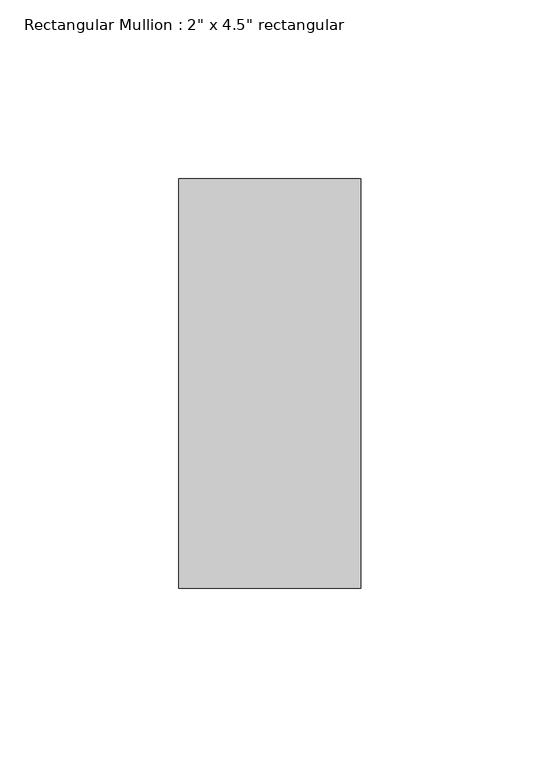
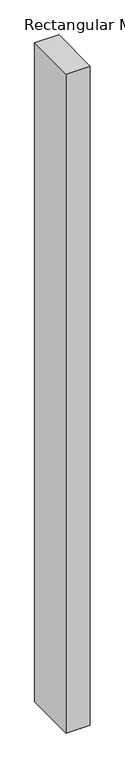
"""IFC4 building model written with IfcOpenShell, lengths in millimetres: member geometry."""

from ifc_helpers import new_model, si_unit, frame, origin, place, context, project, spatial, polyline, outline, extrude, source, transform, mapped, element, save


def member_c23f844a(model_context):
    return source(origin(), model_context, "Body", "SweptSolid", [
        extrude(outline(polyline([(0.0, 57.15), (0.0, -57.15), (-50.8, -57.15), (-50.8, 57.15), (0.0, 57.15)])), frame((0.0, 0.0, -1464.7326442), z_axis=(0.0, 0.0, 1.0), x_axis=(1.0, 0.0, 0.0)), (0.0, 0.0, 1.0), 1464.7326442),
    ])


if __name__ == "__main__":
    model = new_model("IFC4")
    model_context = context("Model", 3, world=origin())
    ifc_project = project(units=[si_unit("LENGTHUNIT", "METRE", prefix="MILLI")], contexts=[model_context])
    site = spatial("IfcSite", under=ifc_project)
    building = spatial("IfcBuilding", under=site)
    placement = place(None, origin())
    member_shape = member_c23f844a(model_context)
    element("IfcMember", 1, ObjectType="Rectangular Mullion : 2\" x 4.5\" rectangular", at=placement, inside=building, context=model_context, shape_type="MappedRepresentation", body=[
        mapped(member_shape, transform((0.0, 0.0, 0.0), x_axis=(1.0, 0.0, 0.0), y_axis=(0.0, 1.0, 0.0), z_axis=(0.0, 0.0, 1.0))),
    ])
    save(model, "model.ifc")
